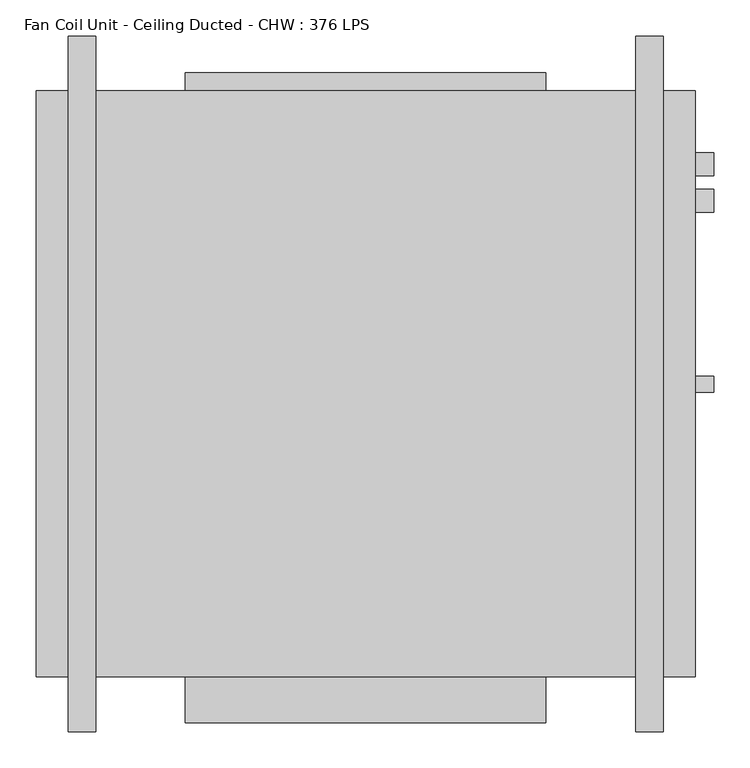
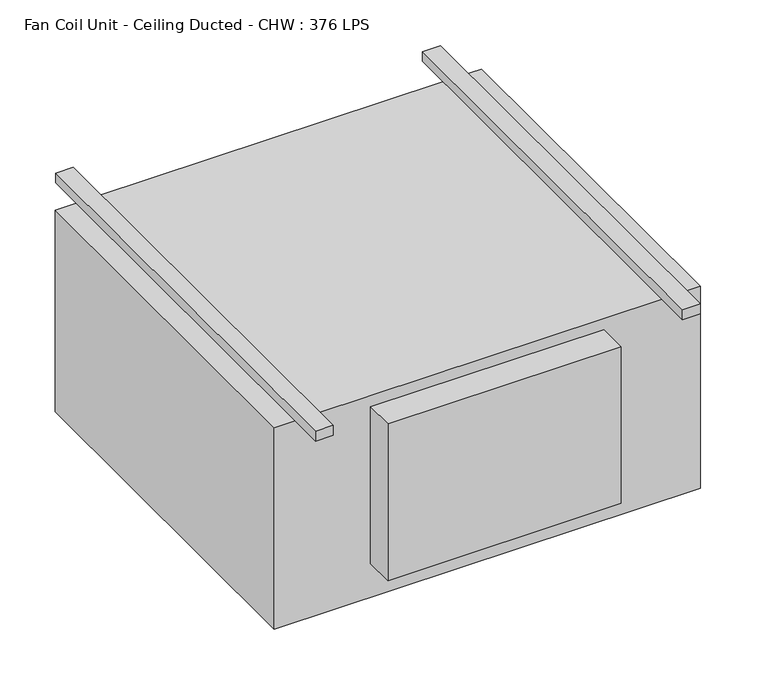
"""IFC4 building model written with IfcOpenShell, lengths in millimetres: proxy geometry, Fan Coil Unit - Ceiling Ducted - CHW : 376 LPS."""

from ifc_helpers import new_model, si_unit, frame, origin, place, context, project, spatial, circle_curve, source, transform, mapped, element, save
from ifc_brep_helpers import plane_surface, cylinder_surface, advanced_brep


def fan_coil_unit_ceiling_ducted_chw_376_lps_48d57206(model_context):
    return source(origin(), model_context, "Body", "AdvancedBrep", [
        advanced_brep(
        [(82.55, -889.0, 479.425), (82.55, 76.2, 479.425), (44.45, 76.2, 479.425), (44.45, -889.0, 479.425), (82.55, 76.2, 457.2), (82.55, 0.0, 457.2), (44.45, 0.0, 457.2), (44.45, 76.2, 457.2), (44.45, -889.0, 457.2), (44.45, -812.8, 457.2), (82.55, -812.8, 457.2), (82.55, -889.0, 457.2), (869.95, -889.0, 479.425), (869.95, 76.2, 479.425), (831.85, 76.2, 479.425), (831.85, -889.0, 479.425), (869.95, 76.2, 457.2), (869.95, 0.0, 457.2), (831.85, 0.0, 457.2), (831.85, 76.2, 457.2), (831.85, -889.0, 457.2), (831.85, -812.8, 457.2), (869.95, -812.8, 457.2), (869.95, -889.0, 457.2), (939.8, -136.4, 381.0), (939.8, -168.4, 381.0), (914.4, -168.4, 381.0), (914.4, -136.4, 381.0), (939.8, -85.6, 101.6), (939.8, -117.6, 101.6), (914.4, -117.6, 101.6), (914.4, -85.6, 101.6), (939.8, -395.2875, 38.1), (939.8, -417.5125, 38.1), (914.4, -417.5125, 38.1), (914.4, -395.2875, 38.1), (0.0, -812.8, 457.2), (0.0, 0.0, 457.2), (914.4, 0.0, 457.2), (914.4, -812.8, 457.2), (914.4, -812.8, 0.0), (0.0, -812.8, 0.0), (0.0, 0.0, 0.0), (914.4, 0.0, 0.0), (707.2, -812.8, 431.8), (707.2, -812.8, 76.2), (207.2, -812.8, 76.2), (207.2, -812.8, 431.8), (207.2, 0.0, 431.8), (207.2, 0.0, 76.2), (707.2, 0.0, 76.2), (707.2, 0.0, 431.8), (707.2, -876.3, 431.8), (207.2, -876.3, 431.8), (707.2, -876.3, 76.2), (207.2, -876.3, 76.2), (707.2, 25.4, 431.8), (207.2, 25.4, 431.8), (207.2, 25.4, 76.2), (707.2, 25.4, 76.2)],
        [
            (0, 1),
            (1, 2),
            (2, 3),
            (3, 0),
            (4, 5),
            (5, 6),
            (6, 7),
            (7, 4),
            (8, 9),
            (9, 10),
            (10, 11),
            (11, 8),
            (3, 8),
            (11, 0),
            (2, 7),
            (6, 9),
            (1, 4),
            (10, 5),
            (12, 13),
            (13, 14),
            (14, 15),
            (15, 12),
            (16, 17),
            (17, 18),
            (18, 19),
            (19, 16),
            (20, 21),
            (21, 22),
            (22, 23),
            (23, 20),
            (15, 20),
            (23, 12),
            (14, 19),
            (18, 21),
            (13, 16),
            (22, 17),
            (24, 25, circle_curve(frame((939.8, -152.4, 381.0), z_axis=(1.0, 0.0, 0.0), x_axis=(0.0, -1.0, 0.0)), 16.0)),
            (25, 24, circle_curve(frame((939.8, -152.4, 381.0), z_axis=(1.0, 0.0, 0.0), x_axis=(0.0, -1.0, 0.0)), 16.0)),
            (25, 26),
            (26, 27, circle_curve(frame((914.4, -152.4, 381.0), z_axis=(1.0, 0.0, 0.0), x_axis=(0.0, -1.0, 0.0)), 16.0)),
            (27, 24),
            (27, 26, circle_curve(frame((914.4, -152.4, 381.0), z_axis=(1.0, 0.0, 0.0), x_axis=(0.0, -1.0, 0.0)), 16.0)),
            (28, 29, circle_curve(frame((939.8, -101.6, 101.6), z_axis=(1.0, 0.0, 0.0), x_axis=(0.0, -1.0, 0.0)), 16.0)),
            (29, 28, circle_curve(frame((939.8, -101.6, 101.6), z_axis=(1.0, 0.0, 0.0), x_axis=(0.0, -1.0, 0.0)), 16.0)),
            (29, 30),
            (30, 31, circle_curve(frame((914.4, -101.6, 101.6), z_axis=(1.0, 0.0, 0.0), x_axis=(0.0, -1.0, 0.0)), 16.0)),
            (31, 28),
            (31, 30, circle_curve(frame((914.4, -101.6, 101.6), z_axis=(1.0, 0.0, 0.0), x_axis=(0.0, -1.0, 0.0)), 16.0)),
            (32, 33, circle_curve(frame((939.8, -406.4, 38.1), z_axis=(1.0, 0.0, 0.0), x_axis=(0.0, -1.0, 0.0)), 11.1125)),
            (33, 32, circle_curve(frame((939.8, -406.4, 38.1), z_axis=(1.0, 0.0, 0.0), x_axis=(0.0, -1.0, 0.0)), 11.1125)),
            (33, 34),
            (34, 35, circle_curve(frame((914.4, -406.4, 38.1), z_axis=(1.0, 0.0, 0.0), x_axis=(0.0, -1.0, 0.0)), 11.1125)),
            (35, 32),
            (35, 34, circle_curve(frame((914.4, -406.4, 38.1), z_axis=(1.0, 0.0, 0.0), x_axis=(0.0, -1.0, 0.0)), 11.1125)),
            (18, 5),
            (10, 21),
            (36, 9),
            (6, 37),
            (37, 36),
            (38, 17),
            (22, 39),
            (39, 38),
            (40, 41),
            (41, 42),
            (42, 43),
            (43, 40),
            (40, 39),
            (36, 41),
            (44, 45),
            (45, 46),
            (46, 47),
            (47, 44),
            (37, 42),
            (38, 43),
            (48, 49),
            (49, 50),
            (50, 51),
            (51, 48),
            (52, 44),
            (47, 53),
            (53, 52),
            (54, 55),
            (55, 46),
            (45, 54),
            (53, 55),
            (54, 52),
            (51, 56),
            (56, 57),
            (57, 48),
            (49, 58),
            (58, 59),
            (59, 50),
            (57, 58),
            (56, 59),
        ],
        [
            plane_surface(frame((44.45, -889.0, 479.425), z_axis=(0.0, 0.0, 1.0), x_axis=(-1.0, 0.0, 0.0))),
            plane_surface(frame((44.45, -889.0, 457.2), z_axis=(0.0, 0.0, -1.0), x_axis=(1.0, 0.0, 0.0))),
            plane_surface(frame((82.55, -889.0, 479.425), z_axis=(0.0, -1.0, 0.0), x_axis=(0.0, 0.0, -1.0))),
            plane_surface(frame((44.45, -889.0, 479.425), z_axis=(-1.0, 0.0, 0.0), x_axis=(0.0, 0.0, -1.0))),
            plane_surface(frame((44.45, 76.2, 479.425), z_axis=(0.0, 1.0, 0.0), x_axis=(0.0, 0.0, -1.0))),
            plane_surface(frame((82.55, 76.2, 479.425), z_axis=(1.0, 0.0, 0.0), x_axis=(0.0, 0.0, -1.0))),
            plane_surface(frame((831.85, -889.0, 479.425), z_axis=(0.0, 0.0, 1.0), x_axis=(-1.0, 0.0, 0.0))),
            plane_surface(frame((831.85, -889.0, 457.2), z_axis=(0.0, 0.0, -1.0), x_axis=(1.0, 0.0, 0.0))),
            plane_surface(frame((869.95, -889.0, 479.425), z_axis=(0.0, -1.0, 0.0), x_axis=(0.0, 0.0, -1.0))),
            plane_surface(frame((831.85, -889.0, 479.425), z_axis=(-1.0, 0.0, 0.0), x_axis=(0.0, 0.0, -1.0))),
            plane_surface(frame((831.85, 76.2, 479.425), z_axis=(0.0, 1.0, 0.0), x_axis=(0.0, 0.0, -1.0))),
            plane_surface(frame((869.95, 76.2, 479.425), z_axis=(1.0, 0.0, 0.0), x_axis=(0.0, 0.0, -1.0))),
            plane_surface(frame((939.8, -168.4, 381.0), z_axis=(1.0, 0.0, 0.0), x_axis=(0.0, 0.0, 1.0))),
            cylinder_surface(frame((914.4, -152.4, 381.0), z_axis=(1.0, 0.0, 0.0), x_axis=(0.0, -1.0, 0.0)), 16.0),
            plane_surface(frame((939.8, -117.6, 101.6), z_axis=(1.0, 0.0, 0.0), x_axis=(0.0, 0.0, 1.0))),
            cylinder_surface(frame((914.4, -101.6, 101.6), z_axis=(1.0, 0.0, 0.0), x_axis=(0.0, -1.0, 0.0)), 16.0),
            plane_surface(frame((939.8, -417.5125, 38.1), z_axis=(1.0, 0.0, 0.0), x_axis=(0.0, 0.0, 1.0))),
            cylinder_surface(frame((914.4, -406.4, 38.1), z_axis=(1.0, 0.0, 0.0), x_axis=(0.0, -1.0, 0.0)), 11.1125),
            plane_surface(frame((0.0, -812.8, 457.2), z_axis=(0.0, 0.0, 1.0), x_axis=(-1.0, 0.0, 0.0))),
            plane_surface(frame((0.0, -812.8, 0.0), z_axis=(0.0, 0.0, -1.0), x_axis=(1.0, 0.0, 0.0))),
            plane_surface(frame((914.4, -812.8, 457.2), z_axis=(0.0, -1.0, 0.0), x_axis=(0.0, 0.0, -1.0))),
            plane_surface(frame((0.0, -812.8, 457.2), z_axis=(-1.0, 0.0, 0.0), x_axis=(0.0, 0.0, -1.0))),
            plane_surface(frame((0.0, 0.0, 457.2), z_axis=(0.0, 1.0, 0.0), x_axis=(0.0, 0.0, -1.0))),
            plane_surface(frame((914.4, 0.0, 457.2), z_axis=(1.0, 0.0, 0.0), x_axis=(0.0, 0.0, -1.0))),
            plane_surface(frame((207.2, -876.3, 431.8), z_axis=(0.0, 0.0, 1.0), x_axis=(-1.0, 0.0, 0.0))),
            plane_surface(frame((207.2, -876.3, 76.2), z_axis=(0.0, 0.0, -1.0), x_axis=(1.0, 0.0, 0.0))),
            plane_surface(frame((707.2, -876.3, 431.8), z_axis=(0.0, -1.0, 0.0), x_axis=(0.0, 0.0, -1.0))),
            plane_surface(frame((207.2, -876.3, 431.8), z_axis=(-1.0, 0.0, 0.0), x_axis=(0.0, 0.0, -1.0))),
            plane_surface(frame((707.2, -812.8, 431.8), z_axis=(1.0, 0.0, 0.0), x_axis=(0.0, 0.0, -1.0))),
            plane_surface(frame((207.2, 0.0, 431.8), z_axis=(0.0, 0.0, 1.0), x_axis=(-1.0, 0.0, 0.0))),
            plane_surface(frame((207.2, 0.0, 76.2), z_axis=(0.0, 0.0, -1.0), x_axis=(1.0, 0.0, 0.0))),
            plane_surface(frame((207.2, 0.0, 431.8), z_axis=(-1.0, 0.0, 0.0), x_axis=(0.0, 0.0, -1.0))),
            plane_surface(frame((207.2, 25.4, 431.8), z_axis=(0.0, 1.0, 0.0), x_axis=(0.0, 0.0, -1.0))),
            plane_surface(frame((707.2, 25.4, 431.8), z_axis=(1.0, 0.0, 0.0), x_axis=(0.0, 0.0, -1.0))),
        ],
        [
            (0, [[1, 2, 3, 4]]),
            (1, [[5, 6, 7, 8]]),
            (1, [[9, 10, 11, 12]]),
            (2, [[13, -12, 14, -4]]),
            (3, [[15, -7, 16, -9, -13, -3]]),
            (4, [[17, -8, -15, -2]]),
            (5, [[-14, -11, 18, -5, -17, -1]]),
            (6, [[19, 20, 21, 22]]),
            (7, [[23, 24, 25, 26]]),
            (7, [[27, 28, 29, 30]]),
            (8, [[31, -30, 32, -22]]),
            (9, [[33, -25, 34, -27, -31, -21]]),
            (10, [[35, -26, -33, -20]]),
            (11, [[-32, -29, 36, -23, -35, -19]]),
            (12, [[37, 38]]),
            (13, [[39, 40, 41, -38]]),
            (13, [[-41, 42, -39, -37]]),
            (14, [[43, 44]]),
            (15, [[45, 46, 47, -44]]),
            (15, [[-47, 48, -45, -43]]),
            (16, [[49, 50]]),
            (17, [[51, 52, 53, -50]]),
            (17, [[-53, 54, -51, -49]]),
            (18, [[-34, 55, -18, 56]]),
            (18, [[57, -16, 58, 59]]),
            (18, [[60, -36, 61, 62]]),
            (19, [[63, 64, 65, 66]]),
            (20, [[67, -61, -28, -56, -10, -57, 68, -63], [69, 70, 71, 72]]),
            (21, [[73, -64, -68, -59]]),
            (22, [[-73, -58, -6, -55, -24, -60, 74, -65], [75, 76, 77, 78]]),
            (23, [[-67, -66, -74, -62], [-42, -40], [-48, -46], [-54, -52]]),
            (24, [[79, -72, 80, 81]]),
            (25, [[82, 83, -70, 84]]),
            (26, [[85, -82, 86, -81]]),
            (27, [[-71, -83, -85, -80]]),
            (28, [[-86, -84, -69, -79]]),
            (29, [[-78, 87, 88, 89]]),
            (30, [[-76, 90, 91, 92]]),
            (31, [[93, -90, -75, -89]]),
            (32, [[94, -91, -93, -88]]),
            (33, [[-77, -92, -94, -87]]),
        ],
    ),
    ])


if __name__ == "__main__":
    model = new_model("IFC4")
    model_context = context("Model", 3, world=origin())
    ifc_project = project(units=[si_unit("LENGTHUNIT", "METRE", prefix="MILLI")], contexts=[model_context])
    site = spatial("IfcSite", under=ifc_project)
    building = spatial("IfcBuilding", under=site)
    placement = place(None, origin())
    fan_coil_unit_ceiling_ducted_chw_376_lps_shape = fan_coil_unit_ceiling_ducted_chw_376_lps_48d57206(model_context)
    element("IfcBuildingElementProxy", 1, Name="Fan Coil Unit - Ceiling Ducted - CHW : 376 LPS", ObjectType="Fan Coil Unit - Ceiling Ducted - CHW : 376 LPS", at=placement, inside=building, context=model_context, shape_type="MappedRepresentation", body=[
        mapped(fan_coil_unit_ceiling_ducted_chw_376_lps_shape, transform((0.0, 0.0, 0.0), x_axis=(1.0, 0.0, 0.0), y_axis=(0.0, 1.0, 0.0), z_axis=(0.0, 0.0, 1.0))),
    ])
    save(model, "model.ifc")
